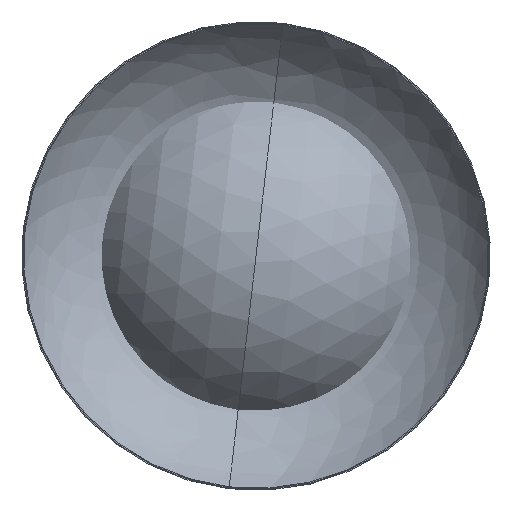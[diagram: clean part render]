
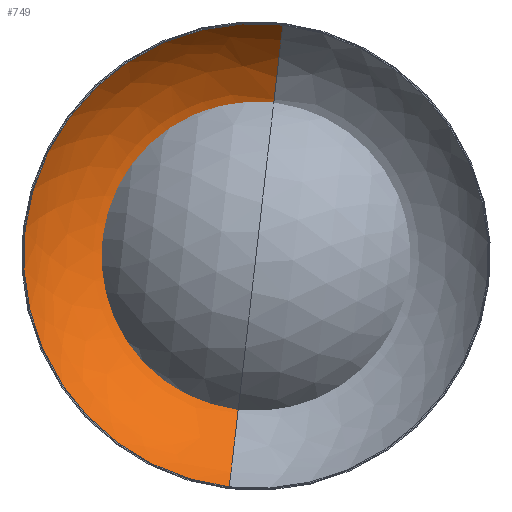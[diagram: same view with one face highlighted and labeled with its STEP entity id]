
A CAD part, top view. The second image highlights one B-rep face of the part: STEP entity #749.
In plain terms, the highlighted free-form (B-spline) face has degree [2, 2] with [3, 5] control points.
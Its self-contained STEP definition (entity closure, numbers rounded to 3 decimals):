
#53=(
BOUNDED_SURFACE()
B_SPLINE_SURFACE(2,2,((#1988,#1989,#1990,#1991,#1992),(#1993,#1994,#1995,
#1996,#1997),(#1998,#1999,#2000,#2001,#2002)),.UNSPECIFIED.,.F.,.F.,.F.)
B_SPLINE_SURFACE_WITH_KNOTS((3,3),(3,2,3),(-1.267,-0.547),
(-1.571,0.,1.571),.UNSPECIFIED.)
GEOMETRIC_REPRESENTATION_ITEM()
RATIONAL_B_SPLINE_SURFACE(((1.,0.707,1.,0.707,1.),
(0.936,0.662,0.936,0.662,
0.936),(1.,0.707,1.,0.707,1.)))
REPRESENTATION_ITEM('')
SURFACE()
);
#95=CIRCLE('',#836,128.471);
#96=CIRCLE('',#837,170.683);
#98=CIRCLE('',#839,170.683);
#99=CIRCLE('',#840,223.129);
#215=FACE_OUTER_BOUND('',#269,.T.);
#269=EDGE_LOOP('',(#668,#669,#670,#671));
#364=VERTEX_POINT('',#1962);
#365=VERTEX_POINT('',#1963);
#366=VERTEX_POINT('',#1983);
#367=VERTEX_POINT('',#1985);
#465=EDGE_CURVE('',#364,#365,#95,.T.);
#466=EDGE_CURVE('',#366,#364,#96,.T.);
#468=EDGE_CURVE('',#365,#367,#98,.T.);
#469=EDGE_CURVE('',#366,#367,#99,.T.);
#668=ORIENTED_EDGE('',*,*,#465,.T.);
#669=ORIENTED_EDGE('',*,*,#468,.T.);
#670=ORIENTED_EDGE('',*,*,#469,.F.);
#671=ORIENTED_EDGE('',*,*,#466,.T.);
#749=ADVANCED_FACE('',(#215),#53,.T.);
#836=AXIS2_PLACEMENT_3D('',#1967,#1028,#1029);
#837=AXIS2_PLACEMENT_3D('',#1984,#1030,#1031);
#839=AXIS2_PLACEMENT_3D('',#1987,#1034,#1035);
#840=AXIS2_PLACEMENT_3D('',#2003,#1036,#1037);
#1028=DIRECTION('center_axis',(0.,0.,
-1.));
#1029=DIRECTION('ref_axis',(1.,0.,0.));
#1030=DIRECTION('center_axis',(1.,0.,0.));
#1031=DIRECTION('ref_axis',(0.,-1.,0.));
#1034=DIRECTION('center_axis',(1.,0.,0.));
#1035=DIRECTION('ref_axis',(0.,1.,0.));
#1036=DIRECTION('center_axis',(0.,0.,
-1.));
#1037=DIRECTION('ref_axis',(1.,0.,0.));
#1962=CARTESIAN_POINT('',(0.,-128.471,25.975));
#1963=CARTESIAN_POINT('',(0.,128.471,25.975));
#1967=CARTESIAN_POINT('Origin',(0.,0.,
25.975));
#1983=CARTESIAN_POINT('',(0.,-223.129,100.));
#1984=CARTESIAN_POINT('Origin',(0.,-77.385,
188.833));
#1985=CARTESIAN_POINT('',(0.,223.129,100.));
#1987=CARTESIAN_POINT('Origin',(0.,77.385,188.833));
#1988=CARTESIAN_POINT('Ctrl Pts',(0.,128.471,
25.975));
#1989=CARTESIAN_POINT('Ctrl Pts',(-128.471,128.471,25.975));
#1990=CARTESIAN_POINT('Ctrl Pts',(-128.471,0.,
25.975));
#1991=CARTESIAN_POINT('Ctrl Pts',(-128.471,-128.471,25.975));
#1992=CARTESIAN_POINT('Ctrl Pts',(0.,-128.471,
25.975));
#1993=CARTESIAN_POINT('Ctrl Pts',(0.,189.72,
45.187));
#1994=CARTESIAN_POINT('Ctrl Pts',(-189.72,189.72,45.187));
#1995=CARTESIAN_POINT('Ctrl Pts',(-189.72,0.,
45.187));
#1996=CARTESIAN_POINT('Ctrl Pts',(-189.72,-189.72,45.187));
#1997=CARTESIAN_POINT('Ctrl Pts',(0.,-189.72,
45.187));
#1998=CARTESIAN_POINT('Ctrl Pts',(0.,223.129,
100.));
#1999=CARTESIAN_POINT('Ctrl Pts',(-223.129,223.129,100.));
#2000=CARTESIAN_POINT('Ctrl Pts',(-223.129,0.,
100.));
#2001=CARTESIAN_POINT('Ctrl Pts',(-223.129,-223.129,100.));
#2002=CARTESIAN_POINT('Ctrl Pts',(0.,-223.129,
100.));
#2003=CARTESIAN_POINT('Origin',(0.,0.,
100.));
